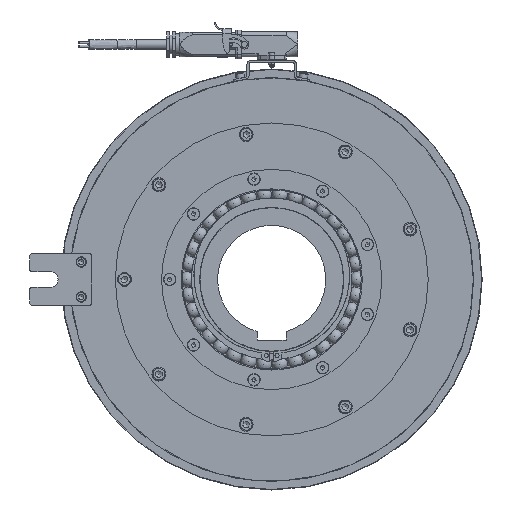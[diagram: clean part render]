
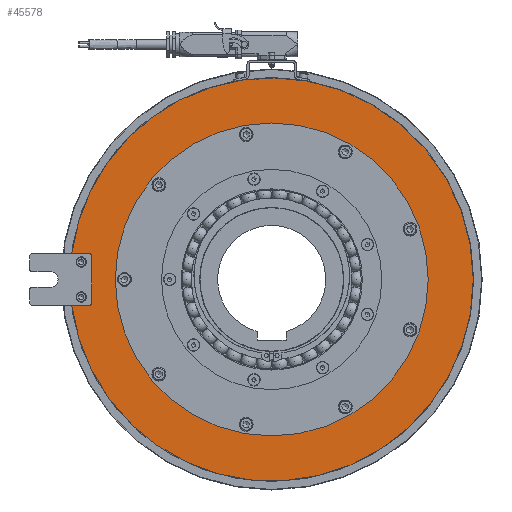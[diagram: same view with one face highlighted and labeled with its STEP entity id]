
A CAD part, left-side view. The second image highlights one B-rep face of the part: STEP entity #45578.
In plain terms, the highlighted planar face has unit normal (-1, 0, 0).
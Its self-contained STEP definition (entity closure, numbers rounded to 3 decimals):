
#1137=PLANE('',#49413);
#2334=FACE_BOUND('',#6711,.T.);
#4111=FACE_OUTER_BOUND('',#6710,.T.);
#6710=EDGE_LOOP('',(#34507,#34508,#34509,#34510,#34511,#34512,#34513,#34514));
#6711=EDGE_LOOP('',(#34515,#34516));
#8253=CIRCLE('',#46929,195.8);
#8256=CIRCLE('',#46932,195.8);
#9386=CIRCLE('',#48755,2.);
#9390=CIRCLE('',#48764,2.);
#9486=CIRCLE('',#48928,152.);
#9487=CIRCLE('',#48929,152.);
#9794=CIRCLE('',#49414,195.8);
#11354=LINE('',#75654,#14597);
#11360=LINE('',#75675,#14603);
#11365=LINE('',#75685,#14608);
#14597=VECTOR('',#55957,10.);
#14603=VECTOR('',#55981,10.);
#14608=VECTOR('',#55994,10.);
#17179=VERTEX_POINT('',#64272);
#17184=VERTEX_POINT('',#64282);
#17185=VERTEX_POINT('',#64284);
#17187=VERTEX_POINT('',#64288);
#18786=VERTEX_POINT('',#75645);
#18787=VERTEX_POINT('',#75647);
#18793=VERTEX_POINT('',#75669);
#18794=VERTEX_POINT('',#75671);
#18941=VERTEX_POINT('',#76140);
#18942=VERTEX_POINT('',#76141);
#21803=EDGE_CURVE('',#17185,#17184,#8253,.T.);
#21806=EDGE_CURVE('',#17179,#17187,#8256,.T.);
#24026=EDGE_CURVE('',#18787,#18786,#9386,.T.);
#24030=EDGE_CURVE('',#18786,#17185,#11354,.T.);
#24038=EDGE_CURVE('',#18794,#18793,#9390,.T.);
#24040=EDGE_CURVE('',#18793,#18787,#11360,.T.);
#24046=EDGE_CURVE('',#17187,#18794,#11365,.T.);
#24236=EDGE_CURVE('',#18941,#18942,#9486,.T.);
#24237=EDGE_CURVE('',#18942,#18941,#9487,.T.);
#24889=EDGE_CURVE('',#17184,#17179,#9794,.T.);
#34507=ORIENTED_EDGE('',*,*,#24030,.T.);
#34508=ORIENTED_EDGE('',*,*,#21803,.T.);
#34509=ORIENTED_EDGE('',*,*,#24889,.T.);
#34510=ORIENTED_EDGE('',*,*,#21806,.T.);
#34511=ORIENTED_EDGE('',*,*,#24046,.T.);
#34512=ORIENTED_EDGE('',*,*,#24038,.T.);
#34513=ORIENTED_EDGE('',*,*,#24040,.T.);
#34514=ORIENTED_EDGE('',*,*,#24026,.T.);
#34515=ORIENTED_EDGE('',*,*,#24236,.T.);
#34516=ORIENTED_EDGE('',*,*,#24237,.T.);
#45578=ADVANCED_FACE('',(#4111,#2334),#1137,.T.);
#46929=AXIS2_PLACEMENT_3D('',#64285,#51641,#51642);
#46932=AXIS2_PLACEMENT_3D('',#64290,#51647,#51648);
#48755=AXIS2_PLACEMENT_3D('',#75648,#55950,#55951);
#48764=AXIS2_PLACEMENT_3D('',#75672,#55976,#55977);
#48928=AXIS2_PLACEMENT_3D('',#76142,#56378,#56379);
#48929=AXIS2_PLACEMENT_3D('',#76143,#56380,#56381);
#49413=AXIS2_PLACEMENT_3D('',#83779,#57421,#57422);
#49414=AXIS2_PLACEMENT_3D('',#83780,#57423,#57424);
#51641=DIRECTION('center_axis',(-1.,0.,0.));
#51642=DIRECTION('ref_axis',(0.,1.,0.));
#51647=DIRECTION('center_axis',(-1.,0.,0.));
#51648=DIRECTION('ref_axis',(0.,1.,0.));
#55950=DIRECTION('center_axis',(1.,0.,0.));
#55951=DIRECTION('ref_axis',(0.,-0.707,-0.707));
#55957=DIRECTION('',(0.,1.,0.));
#55976=DIRECTION('center_axis',(1.,0.,0.));
#55977=DIRECTION('ref_axis',(0.,-0.707,0.707));
#55981=DIRECTION('',(0.,0.,-1.));
#55994=DIRECTION('',(0.,-1.,0.));
#56378=DIRECTION('center_axis',(1.,0.,0.));
#56379=DIRECTION('ref_axis',(0.,1.,0.));
#56380=DIRECTION('center_axis',(1.,0.,0.));
#56381=DIRECTION('ref_axis',(0.,1.,0.));
#57421=DIRECTION('center_axis',(-1.,0.,0.));
#57422=DIRECTION('ref_axis',(0.,0.,
1.));
#57423=DIRECTION('center_axis',(-1.,0.,0.));
#57424=DIRECTION('ref_axis',(0.,1.,0.));
#64272=CARTESIAN_POINT('',(-92.7,-34.,192.825));
#64282=CARTESIAN_POINT('',(-92.7,-195.8,0.));
#64284=CARTESIAN_POINT('',(-92.7,194.197,-25.));
#64285=CARTESIAN_POINT('Origin',(-92.7,0.,0.));
#64288=CARTESIAN_POINT('',(-92.7,194.197,25.));
#64290=CARTESIAN_POINT('Origin',(-92.7,0.,0.));
#75645=CARTESIAN_POINT('',(-92.7,177.,-25.));
#75647=CARTESIAN_POINT('',(-92.7,175.,-23.));
#75648=CARTESIAN_POINT('Origin',(-92.7,177.,-23.));
#75654=CARTESIAN_POINT('',(-92.7,170.2,-25.));
#75669=CARTESIAN_POINT('',(-92.7,175.,23.));
#75671=CARTESIAN_POINT('',(-92.7,177.,25.));
#75672=CARTESIAN_POINT('Origin',(-92.7,177.,23.));
#75675=CARTESIAN_POINT('',(-92.7,175.,12.5));
#75685=CARTESIAN_POINT('',(-92.7,200.2,25.));
#76140=CARTESIAN_POINT('',(-92.7,152.,0.));
#76141=CARTESIAN_POINT('',(-92.7,-152.,0.));
#76142=CARTESIAN_POINT('Origin',(-92.7,0.,0.));
#76143=CARTESIAN_POINT('Origin',(-92.7,0.,0.));
#83779=CARTESIAN_POINT('Origin',(-92.7,165.4,0.));
#83780=CARTESIAN_POINT('Origin',(-92.7,0.,0.));
